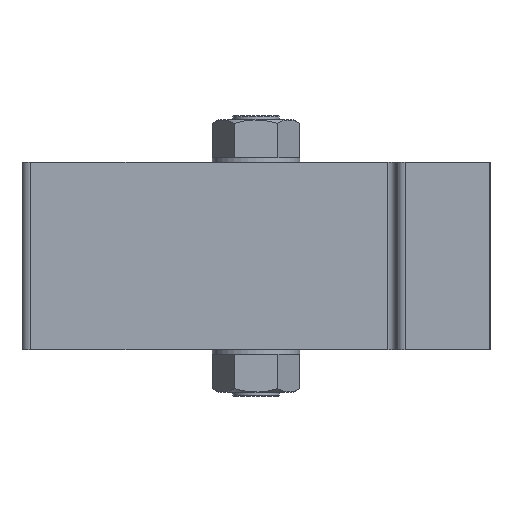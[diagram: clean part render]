
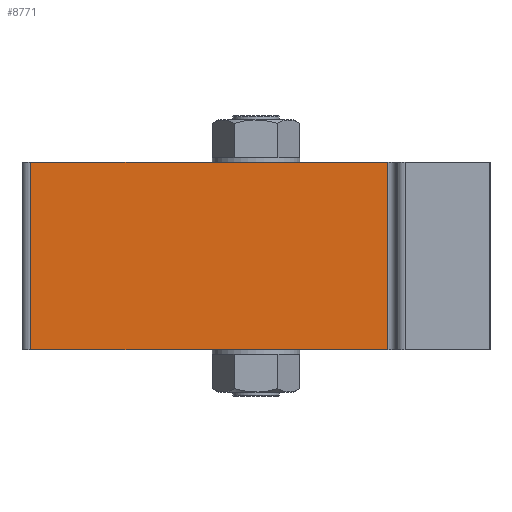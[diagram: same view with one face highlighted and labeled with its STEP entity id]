
A CAD part, left-side view. The second image highlights one B-rep face of the part: STEP entity #8771.
In plain terms, the highlighted planar face has unit normal (-1, 0, 0).
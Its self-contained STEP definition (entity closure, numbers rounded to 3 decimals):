
#6613=CARTESIAN_POINT('',(-40.,38.5,32.0));
#6614=VERTEX_POINT('',#6613);
#6622=CARTESIAN_POINT('',(-40.0,-22.5,32.0));
#6623=VERTEX_POINT('',#6622);
#6624=CARTESIAN_POINT('',(-40.0,-22.5,32.0));
#6625=DIRECTION('',(0.0,1.0,0.0));
#6626=VECTOR('',#6625,61.0);
#6627=LINE('',#6624,#6626);
#6628=EDGE_CURVE('',#6623,#6614,#6627,.T.);
#8729=CARTESIAN_POINT('',(-40.0,-22.5,0.0));
#8730=VERTEX_POINT('',#8729);
#8731=CARTESIAN_POINT('',(-40.0,-22.5,0.0));
#8732=DIRECTION('',(0.0,0.0,1.0));
#8733=VECTOR('',#8732,32.0);
#8734=LINE('',#8731,#8733);
#8735=EDGE_CURVE('',#8730,#6623,#8734,.T.);
#8748=CARTESIAN_POINT('',(-40.0,-22.5,0.0));
#8749=DIRECTION('',(-1.0,0.0,0.0));
#8750=DIRECTION('',(0.0,0.0,1.0));
#8751=AXIS2_PLACEMENT_3D('',#8748,#8749,#8750);
#8752=PLANE('',#8751);
#8753=ORIENTED_EDGE('',*,*,#6628,.T.);
#8754=CARTESIAN_POINT('',(-40.,38.5,0.0));
#8755=VERTEX_POINT('',#8754);
#8756=CARTESIAN_POINT('',(-40.,38.5,0.0));
#8757=DIRECTION('',(0.0,0.0,1.0));
#8758=VECTOR('',#8757,32.0);
#8759=LINE('',#8756,#8758);
#8760=EDGE_CURVE('',#8755,#6614,#8759,.T.);
#8761=ORIENTED_EDGE('',*,*,#8760,.F.);
#8762=CARTESIAN_POINT('',(-40.0,-22.5,0.0));
#8763=DIRECTION('',(0.0,1.0,0.0));
#8764=VECTOR('',#8763,61.0);
#8765=LINE('',#8762,#8764);
#8766=EDGE_CURVE('',#8730,#8755,#8765,.T.);
#8767=ORIENTED_EDGE('',*,*,#8766,.F.);
#8768=ORIENTED_EDGE('',*,*,#8735,.T.);
#8769=EDGE_LOOP('',(#8753,#8761,#8767,#8768));
#8770=FACE_OUTER_BOUND('',#8769,.T.);
#8771=ADVANCED_FACE('',(#8770),#8752,.T.);
